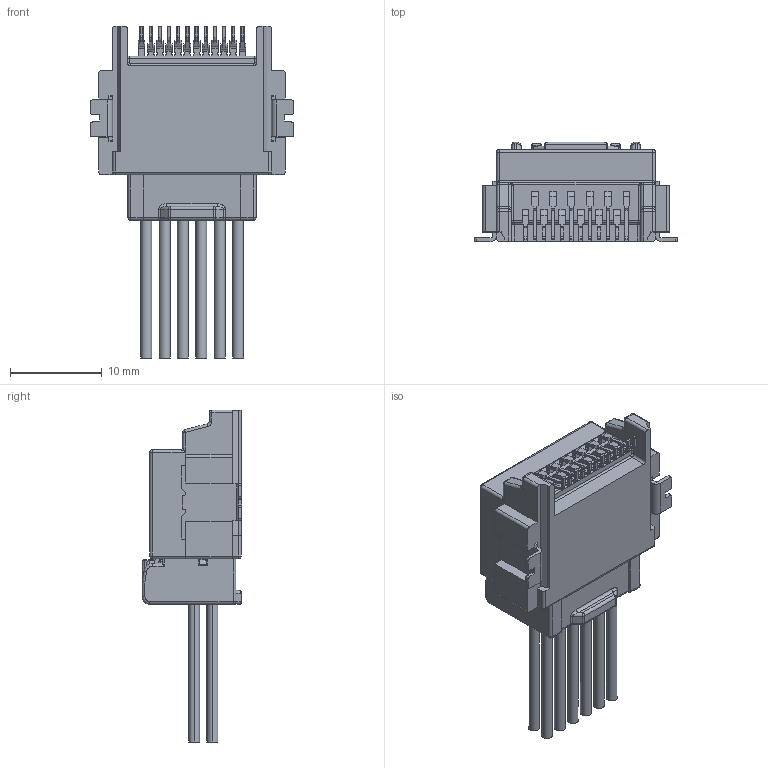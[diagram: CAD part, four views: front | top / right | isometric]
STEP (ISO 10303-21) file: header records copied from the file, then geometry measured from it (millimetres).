
FILE_DESCRIPTION (( 'STEP AP203' ), '1' );
FILE_NAME ('ISHV 12P CONNECTOR.STEP', '2018-08-20T12:43:10', ( '' ), ( '' ), 'SwSTEP 2.0', 'SolidWorks 2017', '' );
FILE_SCHEMA (( 'CONFIG_CONTROL_DESIGN' ));
Length unit declared in the file: millimetre
Products named in the file (2): Part9^ISHV 12P MALE CONNECTOR; ISHV 12P CONNECTOR
Assembly tree (1 placements, depth 2):
  ISHV 12P CONNECTOR
    Part9^ISHV 12P MALE CONNECTOR
Bounding box: 22.1 x 10.85 x 36.15 mm (x, y, z)
Volume: 3079.2 mm3; surface area: 2502.4 mm2
Topology: 1 solids, 1 shells, 1063 faces, 2886 edges, 1828 vertices
Faces by surface type: plane 650, cylinder 321, torus 34, cone 24, sphere 22, bspline 12
Entity records: 33375 total; most frequent: CARTESIAN_POINT 6292, ORIENTED_EDGE 5712, DIRECTION 5532, EDGE_CURVE 2856, VECTOR 2154, LINE 2154, VERTEX_POINT 1828, AXIS2_PLACEMENT_3D 1689
